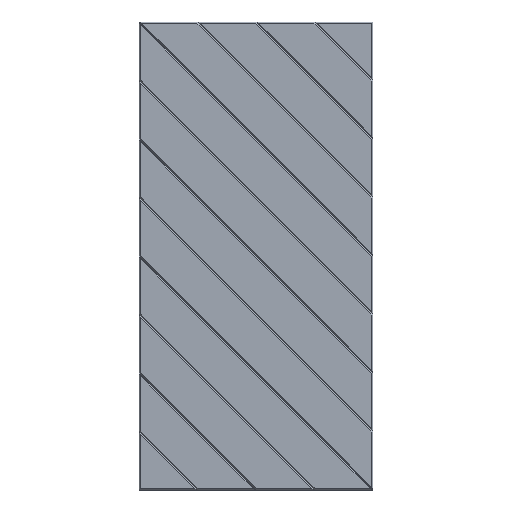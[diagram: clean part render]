
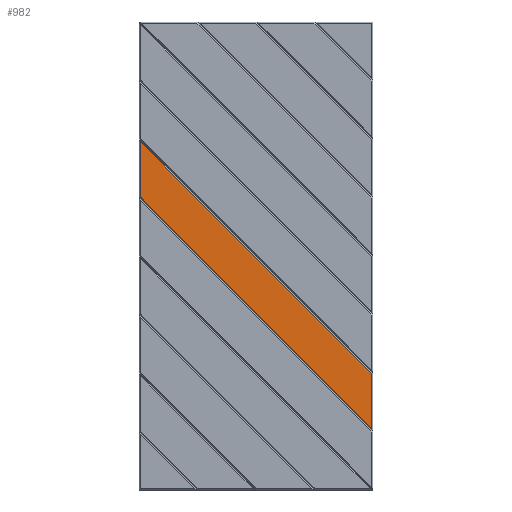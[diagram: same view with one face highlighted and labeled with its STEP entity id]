
A CAD part, top view. The second image highlights one B-rep face of the part: STEP entity #982.
In plain terms, the highlighted planar face has unit normal (0, 0, 1).
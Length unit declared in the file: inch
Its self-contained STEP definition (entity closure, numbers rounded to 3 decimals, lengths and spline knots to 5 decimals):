
#44=FACE_OUTER_BOUND('',#107,.T.);
#107=EDGE_LOOP('',(#736,#737,#738,#739));
#172=LINE('',#1433,#307);
#218=LINE('',#1529,#353);
#231=LINE('',#1550,#366);
#232=LINE('',#1551,#367);
#307=VECTOR('',#1152,0.3937);
#353=VECTOR('',#1228,0.3937);
#366=VECTOR('',#1253,0.3937);
#367=VECTOR('',#1254,0.3937);
#436=VERTEX_POINT('',#1427);
#438=VERTEX_POINT('',#1431);
#473=VERTEX_POINT('',#1528);
#475=VERTEX_POINT('',#1549);
#516=EDGE_CURVE('',#436,#438,#172,.T.);
#562=EDGE_CURVE('',#436,#473,#218,.T.);
#575=EDGE_CURVE('',#475,#438,#231,.T.);
#576=EDGE_CURVE('',#475,#473,#232,.T.);
#736=ORIENTED_EDGE('',*,*,#516,.T.);
#737=ORIENTED_EDGE('',*,*,#575,.F.);
#738=ORIENTED_EDGE('',*,*,#576,.T.);
#739=ORIENTED_EDGE('',*,*,#562,.F.);
#919=PLANE('',#1067);
#982=ADVANCED_FACE('',(#44),#919,.T.);
#1067=AXIS2_PLACEMENT_3D('',#1548,#1251,#1252);
#1152=DIRECTION('',(0.707,-0.707,0.));
#1228=DIRECTION('',(0.,1.,0.));
#1251=DIRECTION('center_axis',(0.,0.,1.));
#1252=DIRECTION('ref_axis',(1.,0.,0.));
#1253=DIRECTION('',(0.,-1.,0.));
#1254=DIRECTION('',(-0.707,0.707,0.));
#1427=CARTESIAN_POINT('',(-23.75,12.10355,0.5));
#1431=CARTESIAN_POINT('',(23.75,-35.39645,0.5));
#1433=CARTESIAN_POINT('',(10.43503,-22.08148,0.5));
#1528=CARTESIAN_POINT('',(-23.75,23.39645,0.5));
#1529=CARTESIAN_POINT('',(-23.75,24.,0.5));
#1548=CARTESIAN_POINT('Origin',(0.,0.,0.5));
#1549=CARTESIAN_POINT('',(23.75,-24.10355,0.5));
#1550=CARTESIAN_POINT('',(23.75,-24.,0.5));
#1551=CARTESIAN_POINT('',(-13.43503,13.08148,0.5));
